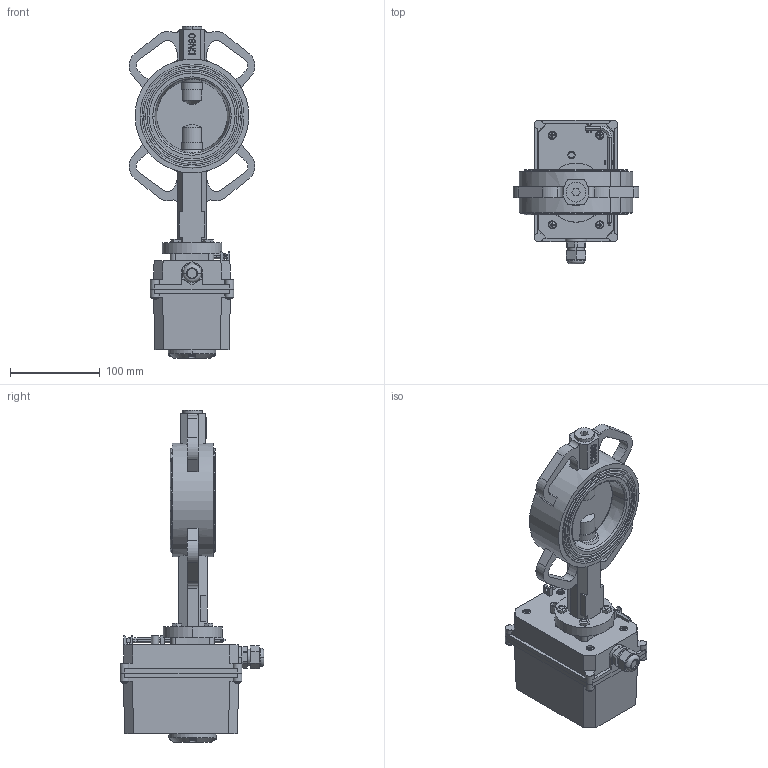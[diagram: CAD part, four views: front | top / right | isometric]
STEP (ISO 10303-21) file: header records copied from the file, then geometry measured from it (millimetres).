
FILE_DESCRIPTION((''),'2;1');
FILE_NAME('VBS_111_EARP_T_ASM','2025-02-21T',('USER'),(''),'PRO/ENGINEER BY PARAMETRIC TECHNOLOGY CORPORATION, 2011220','PRO/ENGINEER BY PARAMETRIC TECHNOLOGY CORPORATION, 2011220','');
FILE_SCHEMA(('CONFIG_CONTROL_DESIGN'));
Length unit declared in the file: millimetre
Products named in the file (20): KORPUS; REZ; DISK; SHTIR_1; ZAGLUSHKA; O-RING; SHTIR_2; SHAIBA_RAZREZ; SHAIBA; KOLCO_22_GOST13943; VTULKA; MANZET_REZ; SB_ASM; B-7798-M6-20; ELECTROPRIVOD; ELECTROPRIVOD_DET_2; SHLYAPKA_VINTA; KLYCH; SB_ELECTROPRIVOD_ASM; VBS_111_EARP_T_ASM
Assembly tree (39 placements, depth 3):
  VBS_111_EARP_T_ASM
    SB_ASM
      KORPUS
      REZ
      DISK
      SHTIR_1
      ZAGLUSHKA
      O-RING  x2
      SHTIR_2
      SHAIBA_RAZREZ
      SHAIBA  x2
      KOLCO_22_GOST13943
      VTULKA  x5
      MANZET_REZ
    B-7798-M6-20  x4
    SB_ELECTROPRIVOD_ASM
      ELECTROPRIVOD
      ELECTROPRIVOD_DET_2
      SHLYAPKA_VINTA  x12
      KLYCH
Bounding box: 140.55 x 160.5 x 370.5 mm (x, y, z)
Volume: 1712251.4 mm3; surface area: 290783.1 mm2
Topology: 37 solids, 52 shells, 1131 faces, 2880 edges, 1866 vertices
Faces by surface type: plane 715, cylinder 292, cone 66, torus 34, sphere 24
Entity records: 26735 total; most frequent: CARTESIAN_POINT 5026, DIRECTION 4631, ORIENTED_EDGE 4276, EDGE_CURVE 2162, AXIS2_PLACEMENT_3D 1608, VECTOR 1415, LINE 1415, VERTEX_POINT 1414
